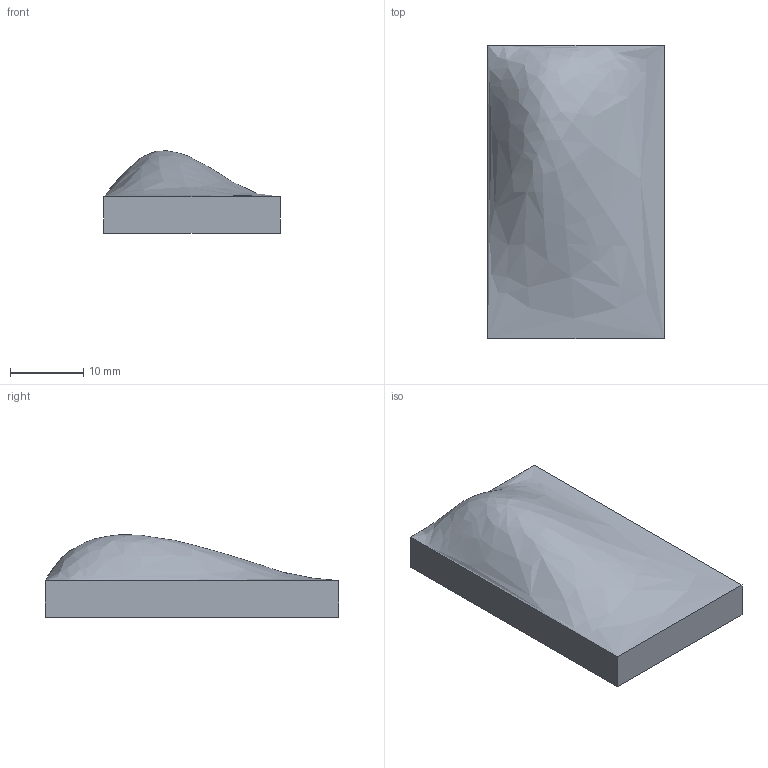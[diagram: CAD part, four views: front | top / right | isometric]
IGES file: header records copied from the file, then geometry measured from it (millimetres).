
Start section: SolidWorks IGES file using NURBS representation for surfaces
Global section: file name: C:\Users\s.takumi\Documents\labo\workpiece\Free.IGS; native system: SolidWorks 2013; preprocessor: SolidWorks 2013; author: s.takumi; date: 160825.191705; units: millimetre
Bounding box: 24 x 40 x 11.25 mm (x, y, z)
Surface area: 2664.6 mm2 (no closed solid volume)
Topology: 0 solids, 0 shells, 6 faces, 36 edges, 48 vertices
Faces by surface type: bspline 6
